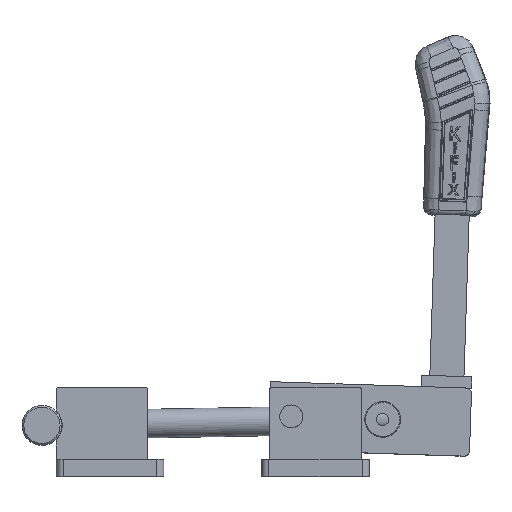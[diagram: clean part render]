
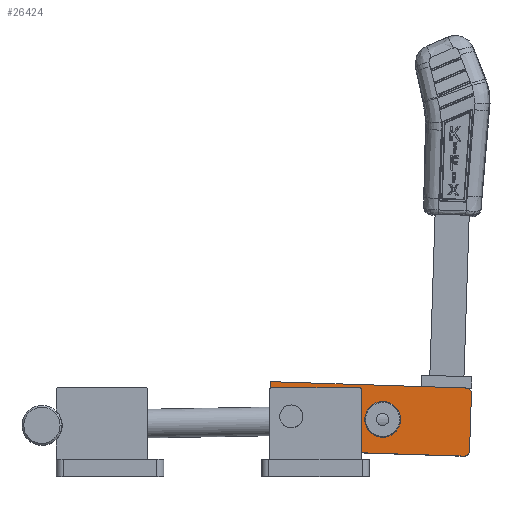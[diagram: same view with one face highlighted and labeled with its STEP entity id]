
A CAD part, top view. The second image highlights one B-rep face of the part: STEP entity #26424.
In plain terms, the highlighted planar face has unit normal (0, 0, 1).
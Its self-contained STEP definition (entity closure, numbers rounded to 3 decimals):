
#46 = DIRECTION ( 'NONE',  ( 0., 0., 1. ) ) ;
#129 = VECTOR ( 'NONE', #12391, 1000. ) ;
#313 = VECTOR ( 'NONE', #26527, 1000. ) ;
#319 = VERTEX_POINT ( 'NONE', #13732 ) ;
#796 = DIRECTION ( 'NONE',  ( -1., 0., 0. ) ) ;
#1491 = DIRECTION ( 'NONE',  ( 0., 0., 1. ) ) ;
#2124 = VERTEX_POINT ( 'NONE', #15382 ) ;
#2320 = CARTESIAN_POINT ( 'NONE',  ( 109., 19., 0. ) ) ;
#2369 = VERTEX_POINT ( 'NONE', #2320 ) ;
#2377 = EDGE_CURVE ( 'NONE', #6297, #2124, #19556, .T. ) ;
#2568 = CARTESIAN_POINT ( 'NONE',  ( 53., 0., 0. ) ) ;
#2816 = DIRECTION ( 'NONE',  ( 0., 0., 1. ) ) ;
#3221 = CIRCLE ( 'NONE', #9442, 1. ) ;
#3250 = VERTEX_POINT ( 'NONE', #29231 ) ;
#3530 = VERTEX_POINT ( 'NONE', #8235 ) ;
#3633 = CARTESIAN_POINT ( 'NONE',  ( 109., -19., 0. ) ) ;
#3656 = CARTESIAN_POINT ( 'NONE',  ( 43., -16.5, 0. ) ) ;
#4129 = DIRECTION ( 'NONE',  ( 1., 0., 0. ) ) ;
#4154 = EDGE_CURVE ( 'NONE', #23895, #16115, #18441, .T. ) ;
#4604 = ORIENTED_EDGE ( 'NONE', *, *, #4154, .T. ) ;
#4611 = CARTESIAN_POINT ( 'NONE',  ( 36.367, -19., 0. ) ) ;
#4961 = ORIENTED_EDGE ( 'NONE', *, *, #27937, .T. ) ;
#5115 = EDGE_CURVE ( 'NONE', #16115, #2369, #29133, .T. ) ;
#5323 = CARTESIAN_POINT ( 'NONE',  ( 0., 19., 0. ) ) ;
#5427 = AXIS2_PLACEMENT_3D ( 'NONE', #12223, #28181, #14520 ) ;
#5450 = CARTESIAN_POINT ( 'NONE',  ( 112., -16., 0. ) ) ;
#5539 = EDGE_CURVE ( 'NONE', #25965, #23895, #5846, .T. ) ;
#5586 = CARTESIAN_POINT ( 'NONE',  ( 112., 16., 0. ) ) ;
#5648 = ORIENTED_EDGE ( 'NONE', *, *, #10066, .T. ) ;
#5846 = CIRCLE ( 'NONE', #5427, 3. ) ;
#5949 = DIRECTION ( 'NONE',  ( 1., 0., 0. ) ) ;
#6255 = FACE_OUTER_BOUND ( 'NONE', #22737, .T. ) ;
#6297 = VERTEX_POINT ( 'NONE', #8147 ) ;
#7684 = VERTEX_POINT ( 'NONE', #28627 ) ;
#8080 = EDGE_CURVE ( 'NONE', #7684, #12625, #23662, .T. ) ;
#8147 = CARTESIAN_POINT ( 'NONE',  ( 0., 19., 0. ) ) ;
#8235 = CARTESIAN_POINT ( 'NONE',  ( 48.749, -19.533, 0. ) ) ;
#8373 = EDGE_CURVE ( 'NONE', #12625, #7684, #14753, .T. ) ;
#8418 = AXIS2_PLACEMENT_3D ( 'NONE', #23649, #10008, #25957 ) ;
#8437 = DIRECTION ( 'NONE',  ( 0., 0., 1. ) ) ;
#8704 = ORIENTED_EDGE ( 'NONE', *, *, #2377, .T. ) ;
#8766 = DIRECTION ( 'NONE',  ( 0., 0., 1. ) ) ;
#9024 = CIRCLE ( 'NONE', #8418, 1. ) ;
#9442 = AXIS2_PLACEMENT_3D ( 'NONE', #27437, #13768, #4129 ) ;
#9674 = CARTESIAN_POINT ( 'NONE',  ( 10., -19., 0. ) ) ;
#9940 = DIRECTION ( 'NONE',  ( 0., 0., 1. ) ) ;
#9951 = DIRECTION ( 'NONE',  ( 0., 0., 1. ) ) ;
#10008 = DIRECTION ( 'NONE',  ( 0., 0., -1. ) ) ;
#10013 = DIRECTION ( 'NONE',  ( 1., 0., 0. ) ) ;
#10066 = EDGE_CURVE ( 'NONE', #2369, #6297, #10071, .T. ) ;
#10071 = LINE ( 'NONE', #5323, #22903 ) ;
#10222 = ORIENTED_EDGE ( 'NONE', *, *, #28777, .T. ) ;
#11571 = DIRECTION ( 'NONE',  ( 0., -1., 0. ) ) ;
#11658 = FACE_BOUND ( 'NONE', #18039, .T. ) ;
#12010 = CIRCLE ( 'NONE', #12342, 10. ) ;
#12223 = CARTESIAN_POINT ( 'NONE',  ( 109., -16., 0. ) ) ;
#12342 = AXIS2_PLACEMENT_3D ( 'NONE', #22127, #8437, #24421 ) ;
#12391 = DIRECTION ( 'NONE',  ( 0., 1., 0. ) ) ;
#12625 = VERTEX_POINT ( 'NONE', #20660 ) ;
#12952 = ORIENTED_EDGE ( 'NONE', *, *, #8080, .F. ) ;
#12975 = CARTESIAN_POINT ( 'NONE',  ( 73., 0., 0. ) ) ;
#13084 = VERTEX_POINT ( 'NONE', #4611 ) ;
#13170 = ORIENTED_EDGE ( 'NONE', *, *, #24243, .T. ) ;
#13269 = ORIENTED_EDGE ( 'NONE', *, *, #17046, .T. ) ;
#13498 = VECTOR ( 'NONE', #11571, 1000. ) ;
#13533 = CIRCLE ( 'NONE', #25674, 10. ) ;
#13732 = CARTESIAN_POINT ( 'NONE',  ( 49.633, -19., 0. ) ) ;
#13768 = DIRECTION ( 'NONE',  ( 0., 0., -1. ) ) ;
#13771 = EDGE_CURVE ( 'NONE', #13084, #3250, #9024, .T. ) ;
#13828 = CARTESIAN_POINT ( 'NONE',  ( 109., 16., 0. ) ) ;
#14520 = DIRECTION ( 'NONE',  ( 1., 0., 0. ) ) ;
#14753 = CIRCLE ( 'NONE', #27501, 6.4 ) ;
#15237 = CARTESIAN_POINT ( 'NONE',  ( 12., 0., 0. ) ) ;
#15255 = VERTEX_POINT ( 'NONE', #2568 ) ;
#15382 = CARTESIAN_POINT ( 'NONE',  ( 0., -9., 0. ) ) ;
#16115 = VERTEX_POINT ( 'NONE', #5586 ) ;
#16130 = DIRECTION ( 'NONE',  ( 1., 0., 0. ) ) ;
#16548 = CARTESIAN_POINT ( 'NONE',  ( 12., 0., 0. ) ) ;
#16809 = AXIS2_PLACEMENT_3D ( 'NONE', #16548, #2816, #18824 ) ;
#16822 = EDGE_CURVE ( 'NONE', #3530, #319, #3221, .T. ) ;
#17046 = EDGE_CURVE ( 'NONE', #319, #25965, #25411, .T. ) ;
#17530 = DIRECTION ( 'NONE',  ( 1., 0., 0. ) ) ;
#17716 = FACE_BOUND ( 'NONE', #21639, .T. ) ;
#18039 = EDGE_LOOP ( 'NONE', ( #27618, #27493 ) ) ;
#18121 = ORIENTED_EDGE ( 'NONE', *, *, #8373, .F. ) ;
#18288 = AXIS2_PLACEMENT_3D ( 'NONE', #3656, #19665, #5949 ) ;
#18441 = LINE ( 'NONE', #5450, #129 ) ;
#18824 = DIRECTION ( 'NONE',  ( 1., 0., 0. ) ) ;
#19506 = AXIS2_PLACEMENT_3D ( 'NONE', #23588, #9940, #25889 ) ;
#19556 = LINE ( 'NONE', #22917, #13498 ) ;
#19665 = DIRECTION ( 'NONE',  ( 0., 0., 1. ) ) ;
#19896 = VERTEX_POINT ( 'NONE', #12975 ) ;
#20062 = PLANE ( 'NONE',  #25034 ) ;
#20127 = EDGE_CURVE ( 'NONE', #19896, #15255, #13533, .T. ) ;
#20660 = CARTESIAN_POINT ( 'NONE',  ( 5.6, 0., 0. ) ) ;
#21036 = ORIENTED_EDGE ( 'NONE', *, *, #13771, .T. ) ;
#21293 = ORIENTED_EDGE ( 'NONE', *, *, #5539, .T. ) ;
#21383 = CARTESIAN_POINT ( 'NONE',  ( 109., -19., 0. ) ) ;
#21639 = EDGE_LOOP ( 'NONE', ( #12952, #18121 ) ) ;
#21787 = CARTESIAN_POINT ( 'NONE',  ( 112., -16., 0. ) ) ;
#21923 = AXIS2_PLACEMENT_3D ( 'NONE', #13828, #46, #16130 ) ;
#22127 = CARTESIAN_POINT ( 'NONE',  ( 63., 0., 0. ) ) ;
#22451 = CARTESIAN_POINT ( 'NONE',  ( 109., -16., 0. ) ) ;
#22633 = CIRCLE ( 'NONE', #19506, 10. ) ;
#22737 = EDGE_LOOP ( 'NONE', ( #8704, #10222, #4961, #21036, #13170, #28232, #13269, #21293, #4604, #23310, #5648 ) ) ;
#22903 = VECTOR ( 'NONE', #796, 1000. ) ;
#22917 = CARTESIAN_POINT ( 'NONE',  ( 0., 19., 0. ) ) ;
#23180 = VERTEX_POINT ( 'NONE', #9674 ) ;
#23268 = EDGE_CURVE ( 'NONE', #15255, #19896, #12010, .T. ) ;
#23310 = ORIENTED_EDGE ( 'NONE', *, *, #5115, .T. ) ;
#23588 = CARTESIAN_POINT ( 'NONE',  ( 10., -9., 0. ) ) ;
#23597 = CARTESIAN_POINT ( 'NONE',  ( 63., 0., 0. ) ) ;
#23649 = CARTESIAN_POINT ( 'NONE',  ( 36.367, -20., 0. ) ) ;
#23662 = CIRCLE ( 'NONE', #16809, 6.4 ) ;
#23895 = VERTEX_POINT ( 'NONE', #21787 ) ;
#24243 = EDGE_CURVE ( 'NONE', #3250, #3530, #29477, .T. ) ;
#24421 = DIRECTION ( 'NONE',  ( 1., 0., 0. ) ) ;
#24747 = DIRECTION ( 'NONE',  ( 1., 0., 0. ) ) ;
#25034 = AXIS2_PLACEMENT_3D ( 'NONE', #22451, #8766, #24747 ) ;
#25411 = LINE ( 'NONE', #3633, #313 ) ;
#25674 = AXIS2_PLACEMENT_3D ( 'NONE', #23597, #9951, #25900 ) ;
#25889 = DIRECTION ( 'NONE',  ( 1., 0., 0. ) ) ;
#25900 = DIRECTION ( 'NONE',  ( 1., 0., 0. ) ) ;
#25957 = DIRECTION ( 'NONE',  ( 1., 0., 0. ) ) ;
#25965 = VERTEX_POINT ( 'NONE', #28672 ) ;
#26424 = ADVANCED_FACE ( 'NONE', ( #11658, #17716, #6255 ), #20062, .T. ) ;
#26527 = DIRECTION ( 'NONE',  ( 1., 0., 0. ) ) ;
#27296 = VECTOR ( 'NONE', #10013, 1000. ) ;
#27437 = CARTESIAN_POINT ( 'NONE',  ( 49.633, -20., 0. ) ) ;
#27493 = ORIENTED_EDGE ( 'NONE', *, *, #23268, .F. ) ;
#27501 = AXIS2_PLACEMENT_3D ( 'NONE', #15237, #1491, #17530 ) ;
#27618 = ORIENTED_EDGE ( 'NONE', *, *, #20127, .F. ) ;
#27937 = EDGE_CURVE ( 'NONE', #23180, #13084, #28010, .T. ) ;
#28010 = LINE ( 'NONE', #21383, #27296 ) ;
#28181 = DIRECTION ( 'NONE',  ( 0., 0., 1. ) ) ;
#28232 = ORIENTED_EDGE ( 'NONE', *, *, #16822, .T. ) ;
#28627 = CARTESIAN_POINT ( 'NONE',  ( 18.4, 0., 0. ) ) ;
#28672 = CARTESIAN_POINT ( 'NONE',  ( 109., -19., 0. ) ) ;
#28777 = EDGE_CURVE ( 'NONE', #2124, #23180, #22633, .T. ) ;
#29133 = CIRCLE ( 'NONE', #21923, 3. ) ;
#29231 = CARTESIAN_POINT ( 'NONE',  ( 37.251, -19.533, 0. ) ) ;
#29477 = CIRCLE ( 'NONE', #18288, 6.5 ) ;
